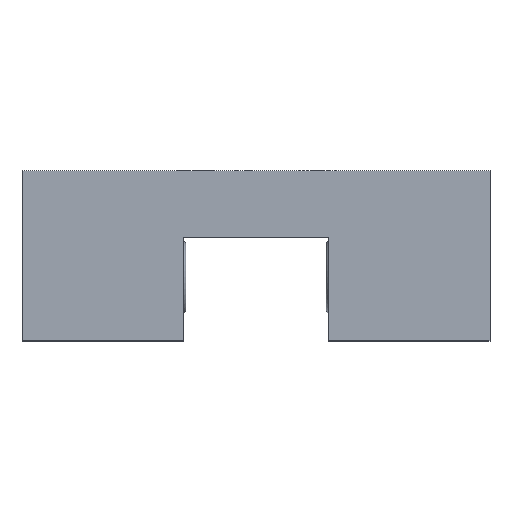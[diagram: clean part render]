
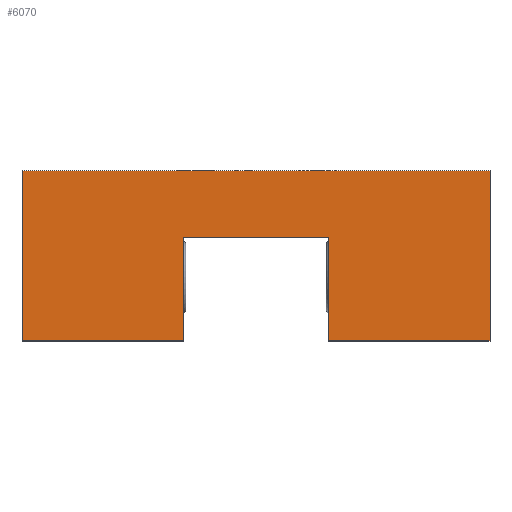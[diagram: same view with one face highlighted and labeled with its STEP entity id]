
A CAD part, top view. The second image highlights one B-rep face of the part: STEP entity #6070.
In plain terms, the highlighted planar face has unit normal (0, 0, 1).
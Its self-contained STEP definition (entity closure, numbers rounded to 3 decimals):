
#225=DIRECTION('',(0.,1.,0.));
#226=VECTOR('',#225,17.);
#227=CARTESIAN_POINT('',(12.,-14.,39.));
#228=LINE('',#227,#226);
#229=DIRECTION('',(-1.,0.,0.));
#230=VECTOR('',#229,24.);
#231=CARTESIAN_POINT('',(12.,3.,39.));
#232=LINE('',#231,#230);
#233=DIRECTION('',(0.,1.,0.));
#234=VECTOR('',#233,17.);
#235=CARTESIAN_POINT('',(-12.,-14.,39.));
#236=LINE('',#235,#234);
#237=DIRECTION('',(1.,0.,0.));
#238=VECTOR('',#237,26.5);
#239=CARTESIAN_POINT('',(-38.5,-14.,39.));
#240=LINE('',#239,#238);
#241=DIRECTION('',(0.,-1.,0.));
#242=VECTOR('',#241,28.);
#243=CARTESIAN_POINT('',(-38.5,14.,39.));
#244=LINE('',#243,#242);
#245=DIRECTION('',(-1.,0.,0.));
#246=VECTOR('',#245,77.);
#247=CARTESIAN_POINT('',(38.5,14.,39.));
#248=LINE('',#247,#246);
#249=DIRECTION('',(0.,1.,0.));
#250=VECTOR('',#249,28.);
#251=CARTESIAN_POINT('',(38.5,-14.,39.));
#252=LINE('',#251,#250);
#253=DIRECTION('',(1.,0.,0.));
#254=VECTOR('',#253,26.5);
#255=CARTESIAN_POINT('',(12.,-14.,39.));
#256=LINE('',#255,#254);
#4981=CARTESIAN_POINT('',(38.5,-14.,39.));
#4982=CARTESIAN_POINT('',(38.5,14.,39.));
#4983=VERTEX_POINT('',#4981);
#4984=VERTEX_POINT('',#4982);
#4985=CARTESIAN_POINT('',(-38.5,14.,39.));
#4986=VERTEX_POINT('',#4985);
#4987=CARTESIAN_POINT('',(-38.5,-14.,39.));
#4988=VERTEX_POINT('',#4987);
#4997=CARTESIAN_POINT('',(12.,-14.,39.));
#4998=CARTESIAN_POINT('',(12.,3.,39.));
#4999=VERTEX_POINT('',#4997);
#5000=VERTEX_POINT('',#4998);
#5001=CARTESIAN_POINT('',(-12.,3.,39.));
#5002=VERTEX_POINT('',#5001);
#5003=CARTESIAN_POINT('',(-12.,-14.,39.));
#5004=VERTEX_POINT('',#5003);
#6055=CARTESIAN_POINT('',(0.,0.,39.));
#6056=DIRECTION('',(0.,0.,1.));
#6057=DIRECTION('',(1.,0.,0.));
#6058=AXIS2_PLACEMENT_3D('',#6055,#6056,#6057);
#6059=PLANE('',#6058);
#6060=ORIENTED_EDGE('',*,*,#5879,.T.);
#6061=ORIENTED_EDGE('',*,*,#5900,.T.);
#6062=ORIENTED_EDGE('',*,*,#5914,.F.);
#6063=ORIENTED_EDGE('',*,*,#5935,.F.);
#6064=ORIENTED_EDGE('',*,*,#5948,.F.);
#6065=ORIENTED_EDGE('',*,*,#5980,.F.);
#6066=ORIENTED_EDGE('',*,*,#6018,.F.);
#6067=ORIENTED_EDGE('',*,*,#6048,.F.);
#6068=EDGE_LOOP('',(#6060,#6061,#6062,#6063,#6064,#6065,#6066,#6067));
#6069=FACE_OUTER_BOUND('',#6068,.F.);
#6070=ADVANCED_FACE('',(#6069),#6059,.T.);
#5879=EDGE_CURVE('',#4999,#5000,#228,.T.);
#5900=EDGE_CURVE('',#5000,#5002,#232,.T.);
#5914=EDGE_CURVE('',#5004,#5002,#236,.T.);
#5935=EDGE_CURVE('',#4988,#5004,#240,.T.);
#5948=EDGE_CURVE('',#4986,#4988,#244,.T.);
#5980=EDGE_CURVE('',#4984,#4986,#248,.T.);
#6018=EDGE_CURVE('',#4983,#4984,#252,.T.);
#6048=EDGE_CURVE('',#4999,#4983,#256,.T.);
